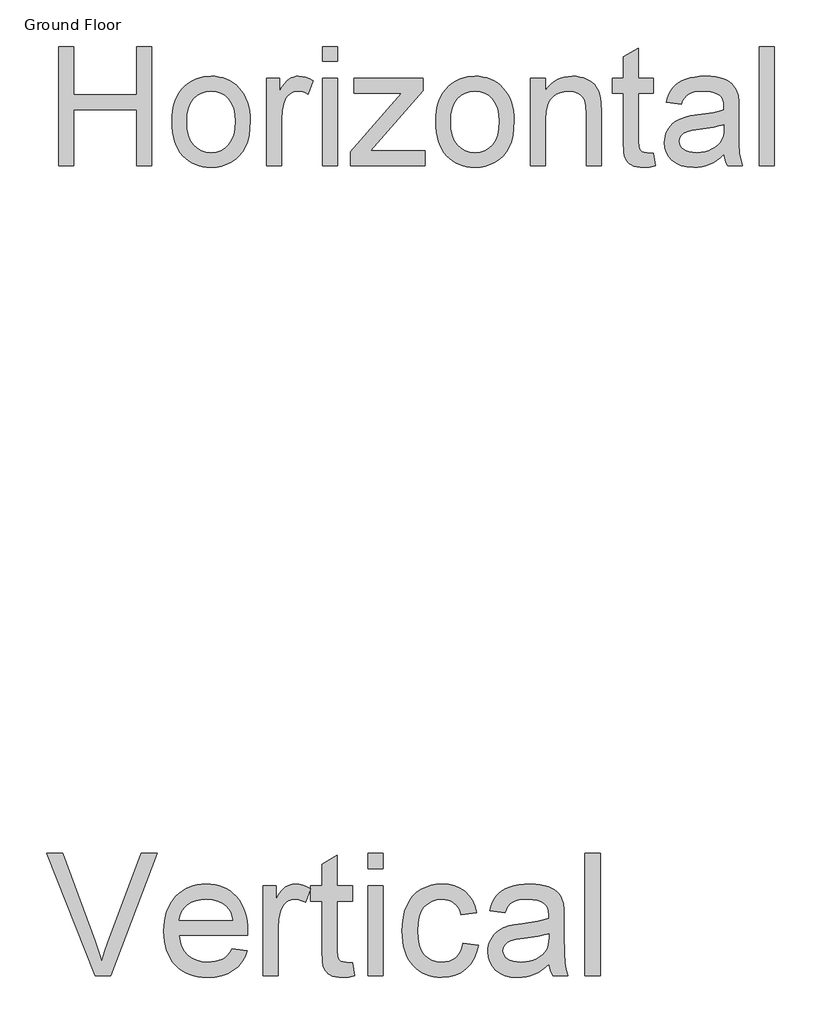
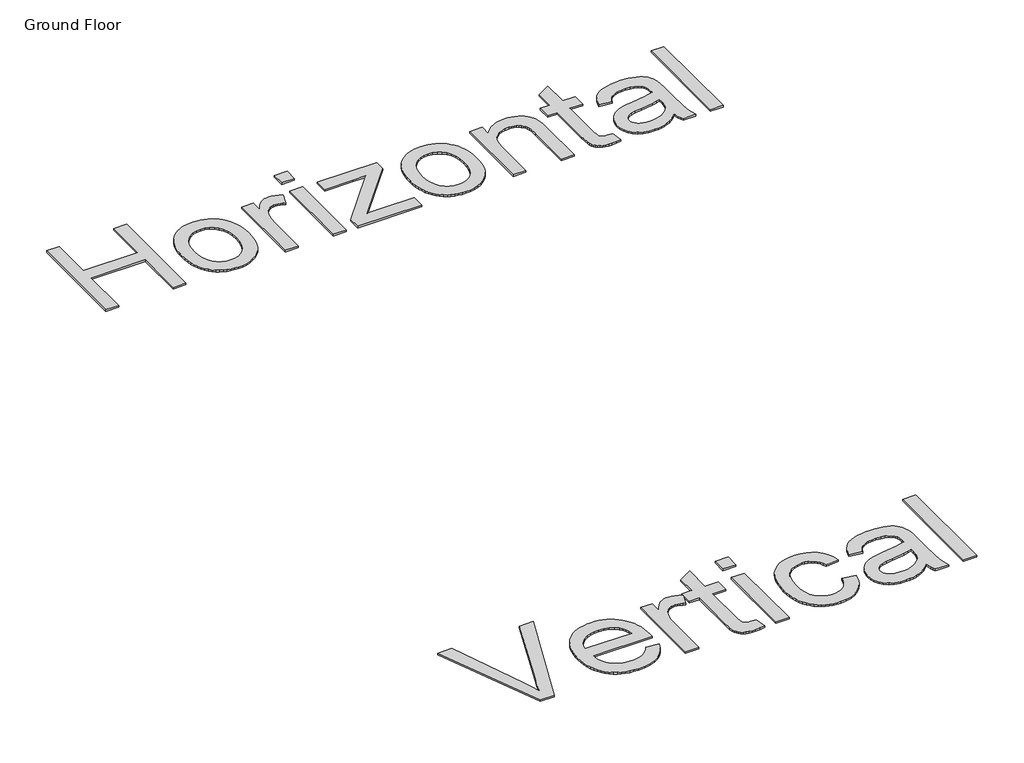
# One storey, part 5 of 11: 2 proxies.
"""IFC4 building model written with IfcOpenShell, lengths in millimetres."""

from ifc_helpers import new_model, si_unit, origin, origin_with_axes, place, context, project, spatial, polyline, outline, extrude, element, save

model = new_model("IFC4")

# Units and contexts
model_context = context("Model", 3, world=origin())
ifc_project = project(units=[si_unit("LENGTHUNIT", "METRE", prefix="MILLI")], contexts=[model_context])

# Site, building, storey
site = spatial("IfcSite", under=ifc_project)
building = spatial("IfcBuilding", under=site)
storey = spatial("IfcBuildingStorey", under=building, Name="Ground Floor", Elevation=0.0)

# Proxies
placement = place(None, origin())
element("IfcBuildingElementProxy", 1, Name="1200mm Arial", ObjectType="1200mm Arial", at=placement, inside=storey, context=model_context, shape_type="SweptSolid", body=[
    extrude(outline(polyline([(-31530.9350667, 5681.3532669), (-32010.6531884, 6886.8289887), (-31849.3737217, 6886.8289887), (-31528.2863163, 6018.3331745), (-31492.6017628, 5917.1656258), (-31463.2447796, 5822.6199531), (-31433.3727616, 5920.5501402), (-31399.0861596, 6018.3331745), (-31077.1158374, 6886.8289887), (-30915.8363708, 6886.8289887), (-31375.2474063, 5681.3532669), (-31530.9350667, 5681.3532669)])), origin_with_axes(), (0.0, 0.0, 1.0), 20.0),
    extrude(outline(polyline([(-30174.7748797, 5945.0510811), (-30027.0334704, 5926.2155229), (-30049.6858043, 5867.041704), (-30080.2659951, 5814.8944312), (-30118.774043, 5769.7737045), (-30165.2099478, 5731.6795239), (-30219.095463, 5701.4212298), (-30279.9523421, 5679.8081626), (-30347.780585, 5666.8403222), (-30422.5801916, 5662.5177088), (-30470.6025876, 5664.3824106), (-30516.0774007, 5669.9765162), (-30559.004631, 5679.3000255), (-30599.3842785, 5692.3529386), (-30637.2163432, 5709.1352554), (-30672.5008251, 5729.6469758), (-30705.2377241, 5753.8881001), (-30735.4270403, 5781.858628), (-30762.5353448, 5813.1952762), (-30786.0292088, 5847.5347612), (-30805.9086321, 5884.877083), (-30822.1736148, 5925.2222415), (-30834.8241569, 5968.5702369), (-30843.8602584, 6014.921069), (-30849.2819193, 6064.2747379), (-30851.0891396, 6116.6312436), (-30849.2635252, 6170.7696777), (-30843.786682, 6221.7903119), (-30834.65861, 6269.6931462), (-30821.8793092, 6314.4781806), (-30805.4487796, 6356.1454151), (-30785.3670212, 6394.6948497), (-30761.634034, 6430.1264843), (-30734.2498179, 6462.4403191), (-30703.9547356, 6491.2730705), (-30671.4891496, 6516.261455), (-30636.8530597, 6537.4054727), (-30600.0464661, 6554.7051235), (-30561.0693687, 6568.1604075), (-30519.9217676, 6577.7713246), (-30476.6036626, 6583.5378749), (-30431.1150539, 6585.4600583), (-30387.114068, 6583.5424734), (-30345.1686228, 6577.7897187), (-30305.2787182, 6568.2017942), (-30267.4443543, 6554.7786999), (-30231.665531, 6537.5204358), (-30197.9422483, 6516.4270019), (-30166.2745063, 6491.4983982), (-30136.662305, 6462.7346247), (-30109.8644009, 6430.4943663), (-30086.6395507, 6395.1363081), (-30066.9877544, 6356.6604499), (-30050.9090119, 6315.0667918), (-30038.4033233, 6270.3553338), (-30029.4706886, 6222.5260759), (-30024.1111078, 6171.5790181), (-30022.3245809, 6117.5141604), (-30023.2074977, 6076.8999881), (-30700.4046744, 6076.8999881), (-30691.676674, 6016.769676), (-30674.3218409, 5964.1073684), (-30648.340175, 5918.9130653), (-30613.7316763, 5881.1867667), (-30572.4093312, 5851.4435074), (-30526.2861261, 5830.1983222), (-30475.3620609, 5817.451211), (-30419.6371357, 5813.202174), (-30377.9561056, 5815.1703427), (-30339.4388607, 5821.0748487), (-30304.085401, 5830.9156921), (-30271.8957264, 5844.6928728), (-30242.869837, 5862.7742729), (-30217.0077327, 5885.5277743), (-30194.3094136, 5912.953377), (-30174.7748797, 5945.0510811)]), holes=[polyline([(-30700.4046744, 6227.5844534), (-30173.0090461, 6227.5844534), (-30180.7529621, 6270.2219766), (-30193.3897086, 6307.1941171), (-30210.9192857, 6338.5008749), (-30233.3416933, 6364.14225), (-30274.4341122, 6395.0443376), (-30321.1919138, 6417.1172573), (-30373.6150981, 6430.3610091), (-30431.7036651, 6434.7755931), (-30484.6878695, 6431.253123), (-30533.275884, 6420.6857126), (-30577.4677086, 6403.0733621), (-30617.2633435, 6378.4160714), (-30650.6578316, 6347.8542746), (-30675.6462161, 6312.5284061), (-30692.228497, 6272.4384656), (-30700.4046744, 6227.5844534)])]), origin_with_axes(), (0.0, 0.0, 1.0), 20.0),
    extrude(outline(polyline([(-29871.6401157, 5681.3532669), (-29871.6401157, 6566.6245001), (-29739.7912086, 6566.6245001), (-29739.7912086, 6435.6585098), (-29714.9591739, 6477.5234809), (-29691.0836324, 6511.5893536), (-29668.1645841, 6537.8561281), (-29646.202029, 6556.3238043), (-29624.2026857, 6569.0709154), (-29601.1732728, 6578.1759948), (-29577.1137903, 6583.6390424), (-29552.0242382, 6585.4600583), (-29514.6474275, 6582.5537905), (-29476.9763112, 6573.8349872), (-29439.0108893, 6559.3036484), (-29400.7511618, 6538.9597741), (-29451.0774188, 6403.8735055), (-29477.5649224, 6417.3931688), (-29504.0524261, 6427.0500712), (-29530.5399297, 6432.8442126), (-29557.0274334, 6434.7755931), (-29580.1212256, 6432.917789), (-29602.0194014, 6427.3443768), (-29622.7219607, 6418.0553564), (-29642.2289035, 6405.0507278), (-29659.8044658, 6388.7535555), (-29674.7128836, 6369.5869035), (-29686.954157, 6347.550772), (-29696.5282859, 6322.6451609), (-29707.2152579, 6281.5159539), (-29714.8488093, 6238.4737604), (-29720.9556504, 6146.6504144), (-29720.9556504, 5681.3532669), (-29871.6401157, 5681.3532669)])), origin_with_axes(), (0.0, 0.0, 1.0), 20.0),
    extrude(outline(polyline([(-28986.3688825, 5807.0217565), (-28967.5333243, 5676.938683), (-29027.2037839, 5666.1229523), (-29080.2523676, 5662.5177088), (-29118.7144302, 5664.0812073), (-29152.5779679, 5668.7717027), (-29181.8429806, 5676.5891951), (-29206.5094684, 5687.5336845), (-29227.2212247, 5701.0165596), (-29244.6220431, 5716.4492093), (-29258.7119235, 5733.8316335), (-29269.4908659, 5753.1638324), (-29277.4739052, 5779.081119), (-29283.1760762, 5816.2188064), (-29287.7378129, 5924.1553837), (-29287.7378129, 6415.9400349), (-29400.7511618, 6415.9400349), (-29400.7511618, 6566.6245001), (-29287.7378129, 6566.6245001), (-29287.7378129, 6781.7618909), (-29137.0533477, 6870.3478753), (-29137.0533477, 6566.6245001), (-28986.3688825, 6566.6245001), (-28986.3688825, 6415.9400349), (-29137.0533477, 6415.9400349), (-29137.0533477, 5928.5699677), (-29135.0667849, 5878.9794747), (-29129.1070966, 5850.8732903), (-29118.6960361, 5835.3118819), (-29103.3553569, 5823.3557171), (-29081.613531, 5815.7405598), (-29051.9990304, 5813.202174), (-28986.3688825, 5807.0217565)])), origin_with_axes(), (0.0, 0.0, 1.0), 20.0),
    extrude(outline(polyline([(-28835.6844172, 5681.3532669), (-28835.6844172, 6566.6245001), (-28684.999952, 6566.6245001), (-28684.999952, 5681.3532669), (-28835.6844172, 5681.3532669)])), origin_with_axes(), (0.0, 0.0, 1.0), 20.0),
    extrude(outline(polyline([(-28835.6844172, 6736.1445235), (-28835.6844172, 6886.8289887), (-28684.999952, 6886.8289887), (-28684.999952, 6736.1445235), (-28835.6844172, 6736.1445235)])), origin_with_axes(), (0.0, 0.0, 1.0), 20.0),
    extrude(outline(polyline([(-27893.9065096, 6001.5577555), (-27743.2220444, 5982.7221974), (-27759.6111872, 5911.6198048), (-27785.2341682, 5848.7027865), (-27820.0909872, 5793.9711427), (-27864.1816444, 5747.4248733), (-27915.6483355, 5710.2779888), (-27972.6332565, 5683.7444999), (-28035.1364075, 5667.8244066), (-28103.1577884, 5662.5177088), (-28146.5057838, 5664.3686151), (-28187.6694798, 5669.9213339), (-28226.6488764, 5679.1758654), (-28263.4439737, 5692.1322094), (-28298.0547717, 5708.790366), (-28330.4812703, 5729.1503352), (-28360.7234696, 5753.2121169), (-28388.7813695, 5780.9757112), (-28414.0617603, 5812.1973963), (-28435.9714324, 5846.6334503), (-28454.5103857, 5884.2838733), (-28469.6786202, 5925.1486651), (-28481.476136, 5969.2278259), (-28489.9029329, 6016.5213557), (-28494.9590111, 6067.0292544), (-28496.6443705, 6120.751522), (-28493.7656939, 6190.0328987), (-28485.129664, 6254.8445092), (-28470.736281, 6315.1863535), (-28450.5855447, 6371.0584315), (-28424.5394994, 6421.3387032), (-28392.4601894, 6464.9051285), (-28354.3476147, 6501.7577073), (-28310.2017753, 6531.8964398), (-28262.018431, 6555.3305229), (-28211.7933416, 6572.0691537), (-28159.5265071, 6582.1123321), (-28105.2179276, 6585.4600583), (-28038.364572, 6580.8615333), (-27977.8939691, 6567.0659585), (-27923.8061187, 6544.0733338), (-27876.101021, 6511.8836592), (-27835.5880163, 6471.2326988), (-27803.076445, 6422.8562164), (-27778.566307, 6366.7542121), (-27762.0576025, 6302.926686), (-27912.7420677, 6284.0911278), (-27924.5050945, 6319.2882377), (-27940.0757, 6349.8316404), (-27959.4538841, 6375.7213358), (-27982.6396468, 6396.957324), (-28009.044377, 6413.5028167), (-28038.0794635, 6425.3210258), (-28069.7449062, 6432.4119512), (-28104.0407052, 6434.7755931), (-28155.2406819, 6430.1218858), (-28201.4190693, 6416.1607641), (-28242.5758676, 6392.8922279), (-28278.7110765, 6360.3162772), (-28294.4725208, 6340.3494819), (-28308.1324391, 6317.678754), (-28329.1476981, 6264.2255001), (-28341.7568535, 6199.9565155), (-28345.9599053, 6124.8718003), (-28341.848824, 6048.655848), (-28329.5155801, 5983.6419024), (-28308.9601736, 5929.8299635), (-28295.5991594, 5907.1247466), (-28280.1826045, 5887.2200314), (-28244.7647654, 5854.8372188), (-28204.2885489, 5831.7066384), (-28158.753955, 5817.8282901), (-28108.1609836, 5813.202174), (-28067.3904615, 5816.0900477), (-28030.1332124, 5824.7536687), (-27996.3892364, 5839.193037), (-27966.1585334, 5859.4081526), (-27940.2872321, 5885.6197448), (-27919.621461, 5918.0485426), (-27904.1612202, 5956.6945462), (-27893.9065096, 6001.5577555)])), origin_with_axes(), (0.0, 0.0, 1.0), 20.0),
    extrude(outline(polyline([(-27046.3063927, 5794.3666159), (-27082.0369315, 5760.834172), (-27118.3008991, 5732.6360171), (-27155.0982957, 5709.7721511), (-27192.4291212, 5692.242574), (-27230.7164398, 5679.2379455), (-27270.383316, 5669.9489251), (-27311.4297496, 5664.3755129), (-27353.8557407, 5662.5177088), (-27420.9482195, 5666.987475), (-27479.7817476, 5680.3967737), (-27530.3563249, 5702.745605), (-27572.6719514, 5734.0339686), (-27606.0848336, 5772.275302), (-27629.951178, 5815.4830424), (-27644.2709847, 5863.6571896), (-27649.0442536, 5916.7977438), (-27647.2416318, 5948.7482951), (-27641.8337665, 5979.2641066), (-27632.8206576, 6008.3451783), (-27620.2023052, 6035.9915103), (-27604.6500938, 6061.5960971), (-27586.8354082, 6084.5519336), (-27566.7582483, 6104.8590198), (-27544.4186142, 6122.5173555), (-27494.5706038, 6151.2121512), (-27438.9100579, 6171.9606957), (-27384.6842519, 6183.5121903), (-27308.5326789, 6194.6222266), (-27154.4636993, 6218.4609799), (-27094.9771807, 6231.9254609), (-27047.1893095, 6246.4200115), (-27046.3063927, 6279.9708495), (-27048.8999608, 6316.5015316), (-27056.680665, 6347.2196782), (-27069.6485053, 6372.1252893), (-27087.8034817, 6391.2183648), (-27119.1838159, 6410.2746522), (-27157.4067552, 6423.886286), (-27202.4722996, 6432.0532663), (-27254.3804492, 6434.7755931), (-27302.6465669, 6432.9637742), (-27344.143656, 6427.5283177), (-27378.8717163, 6418.4692236), (-27406.830748, 6405.7864918), (-27429.8049786, 6388.486841), (-27449.5786358, 6365.5769898), (-27466.1517197, 6337.0569381), (-27479.5242302, 6302.926686), (-27630.2086954, 6321.7622441), (-27618.7399742, 6365.1723196), (-27604.0522856, 6404.1678111), (-27586.1456295, 6438.7487186), (-27565.0200059, 6468.9150422), (-27539.7649069, 6495.2737872), (-27509.4698246, 6518.4319588), (-27474.134759, 6538.389557), (-27433.75971, 6555.1465819), (-27389.1632151, 6568.4087278), (-27341.1638118, 6577.8816892), (-27289.7615001, 6583.565466), (-27234.9562798, 6585.4600583), (-27181.3834643, 6583.7861952), (-27133.0897554, 6578.764606), (-27090.0751531, 6570.3952906), (-27052.3396574, 6558.678249), (-27019.5705687, 6544.4320188), (-26991.4551872, 6528.4751372), (-26967.993513, 6510.8076044), (-26949.185546, 6491.4294203), (-26933.9368373, 6469.8623383), (-26921.1529379, 6445.6281119), (-26902.9795674, 6389.1582257), (-26897.4613374, 6337.0661351), (-26895.6219275, 6257.3093186), (-26895.6219275, 6069.8366538), (-26893.7089411, 5906.5338362), (-26887.969982, 5808.0518261), (-26876.6392165, 5743.3413831), (-26857.9508112, 5681.3532669), (-27008.6352764, 5681.3532669), (-27022.026181, 5706.5163954), (-27032.7683353, 5733.739663), (-27046.3063927, 5794.3666159)]), holes=[polyline([(-27046.3063927, 6095.7355463), (-27091.8501837, 6082.6941296), (-27147.5475178, 6070.6459942), (-27289.4028151, 6049.5295677), (-27367.5777391, 6037.9780731), (-27419.0444302, 6025.1022032), (-27452.7792092, 6008.4003606), (-27477.7583966, 5985.3709477), (-27493.2094404, 5957.7797981), (-27498.3597884, 5927.3927453), (-27495.5546882, 5903.9770563), (-27487.1393875, 5882.5847183), (-27473.1138864, 5863.2157312), (-27453.478185, 5845.8700952), (-27428.416224, 5831.5778797), (-27398.1119447, 5821.3691543), (-27362.5653469, 5815.2439191), (-27321.7764307, 5813.202174), (-27280.1321888, 5815.4554512), (-27240.8423917, 5822.2152829), (-27203.9070394, 5833.481669), (-27169.3261319, 5849.2546095), (-27138.1297387, 5868.2281234), (-27111.3479294, 5889.0962296), (-27088.9807041, 5911.8589281), (-27071.0280628, 5936.5162188), (-27060.5986082, 5958.5891385), (-27053.1489978, 5985.3709477), (-27048.6792316, 6016.8616465), (-27047.1893095, 6053.0612349), (-27046.3063927, 6095.7355463)])]), origin_with_axes(), (0.0, 0.0, 1.0), 20.0),
    extrude(outline(polyline([(-26688.4307878, 5681.3532669), (-26688.4307878, 6886.8289887), (-26537.7463226, 6886.8289887), (-26537.7463226, 5681.3532669), (-26688.4307878, 5681.3532669)])), origin_with_axes(), (0.0, 0.0, 1.0), 20.0),
])
element("IfcBuildingElementProxy", 2, Name="1200mm Arial", ObjectType="1200mm Arial", at=placement, inside=storey, context=model_context, shape_type="SweptSolid", body=[
    extrude(outline(polyline([(-31890.3482906, 13681.3532669), (-31890.3482906, 14856.6259942), (-31743.4391996, 14856.6259942), (-31743.4391996, 14379.1714488), (-31119.0755633, 14379.1714488), (-31119.0755633, 14856.6259942), (-30972.1664724, 14856.6259942), (-30972.1664724, 13681.3532669), (-31119.0755633, 13681.3532669), (-31119.0755633, 14232.2623578), (-31743.4391996, 14232.2623578), (-31743.4391996, 13681.3532669), (-31890.3482906, 13681.3532669)])), origin_with_axes(), (0.0, 0.0, 1.0), 20.0),
    extrude(outline(polyline([(-30770.1664724, 14112.8987215), (-30768.1803662, 14170.7199662), (-30762.2220477, 14224.6765979), (-30752.2915168, 14274.7686167), (-30738.3887735, 14320.9960226), (-30720.5138179, 14363.3588156), (-30698.6666499, 14401.8569956), (-30672.8472696, 14436.4905627), (-30643.0556769, 14467.2595169), (-30615.7881876, 14489.6536487), (-30587.0681059, 14509.0618962), (-30556.8954319, 14525.4842595), (-30525.2701656, 14538.9207385), (-30492.1923069, 14549.3713333), (-30457.6618559, 14556.8360439), (-30384.2431769, 14562.8078124), (-30342.7479044, 14560.9898303), (-30303.1939049, 14555.5358841), (-30265.5811785, 14546.4459738), (-30229.9097252, 14533.7200993), (-30196.179545, 14517.3582607), (-30164.3906379, 14497.360458), (-30134.5430038, 14473.7266911), (-30106.6366428, 14446.4569601), (-30081.3844012, 14415.9816627), (-30059.4991251, 14382.7311966), (-30040.9808145, 14346.7055619), (-30025.8294695, 14307.9047584), (-30014.0450901, 14266.3287863), (-30005.6276762, 14221.9776455), (-30000.5772279, 14174.851336), (-29998.8937451, 14124.9498578), (-30001.8706627, 14046.3126064), (-30010.8014156, 13976.5343749), (-30025.6860036, 13915.6151632), (-30046.5244269, 13863.5549715), (-30073.0566535, 13818.5873756), (-30105.0226513, 13778.9459516), (-30142.4224205, 13744.6306995), (-30185.255961, 13715.6416192), (-30231.8554816, 13692.6063742), (-30280.5531911, 13676.1526277), (-30331.3490896, 13666.2803799), (-30384.2431769, 13662.9896306), (-30426.3930127, 13664.8008877), (-30466.4760427, 13670.234659), (-30504.4922669, 13679.2909445), (-30540.4416854, 13691.9697442), (-30574.3242982, 13708.2710581), (-30606.1401052, 13728.1948863), (-30635.8891064, 13751.7412286), (-30663.5713019, 13778.9100851), (-30688.554545, 13809.486257), (-30710.206689, 13843.2545453), (-30728.5277339, 13880.2149502), (-30743.5176798, 13920.3674715), (-30755.1765265, 13963.7121093), (-30763.5042742, 14010.2488635), (-30768.5009228, 14059.9777343), (-30770.1664724, 14112.8987215)]), holes=[polyline([(-30623.2573815, 14113.1856533), (-30619.0072039, 14041.9279296), (-30606.2566712, 13980.228622), (-30585.0057835, 13928.0877307), (-30555.2545406, 13885.5052556), (-30519.065265, 13852.4273969), (-30478.5002792, 13828.800355), (-30433.5595832, 13814.6241299), (-30384.2431769, 13809.8987215), (-30335.177836, 13814.6510297), (-30290.4164724, 13828.9079544), (-30249.959086, 13852.6694956), (-30213.8056769, 13885.9356533), (-30184.054434, 13928.9395595), (-30162.8035462, 13981.9143465), (-30150.0530136, 14044.8600141), (-30145.802836, 14117.7765624), (-30150.0799134, 14186.774698), (-30162.9111457, 14246.8600141), (-30184.2965327, 14298.0325105), (-30214.2360746, 14340.2921874), (-30250.523983, 14373.3700461), (-30290.9544695, 14396.997088), (-30335.5275342, 14411.1733131), (-30384.2431769, 14415.8987215), (-30433.5595832, 14411.1912463), (-30478.5002792, 14397.0688209), (-30519.065265, 14373.5314452), (-30555.2545406, 14340.5791192), (-30585.0057835, 14298.1221767), (-30606.2566712, 14246.0709516), (-30619.0072039, 14184.4254438), (-30623.2573815, 14113.1856533)])]), origin_with_axes(), (0.0, 0.0, 1.0), 20.0),
    extrude(outline(polyline([(-29833.6210178, 13681.3532669), (-29833.6210178, 14544.444176), (-29705.0755633, 14544.444176), (-29705.0755633, 14416.7595169), (-29680.8656911, 14457.5755681), (-29657.5883474, 14490.787926), (-29635.243532, 14516.3965908), (-29613.8312451, 14534.4015624), (-29592.3830917, 14546.8292968), (-29569.9306769, 14555.7062499), (-29546.4740008, 14561.0324218), (-29522.0130633, 14562.8078124), (-29485.5727224, 14559.9743607), (-29448.8454496, 14551.4740056), (-29411.8312451, 14537.306747), (-29374.5301087, 14517.4725851), (-29423.5954496, 14385.7708806), (-29449.4193133, 14398.951811), (-29475.2431769, 14408.3667613), (-29501.0670406, 14414.0157314), (-29526.8909042, 14415.8987215), (-29549.4060853, 14414.0874644), (-29570.7556059, 14408.6536931), (-29590.939466, 14399.5974076), (-29609.9576656, 14386.9186078), (-29627.0928751, 14371.0297584), (-29641.627765, 14352.3433238), (-29653.5623353, 14330.8593039), (-29662.896586, 14306.5776988), (-29673.3157977, 14266.4789772), (-29680.7580917, 14224.5151988), (-29686.7119269, 14134.9924715), (-29686.7119269, 13681.3532669), (-29833.6210178, 13681.3532669)])), origin_with_axes(), (0.0, 0.0, 1.0), 20.0),
    extrude(outline(polyline([(-29282.7119269, 13681.3532669), (-29282.7119269, 14544.444176), (-29135.802836, 14544.444176), (-29135.802836, 13681.3532669), (-29282.7119269, 13681.3532669)])), origin_with_axes(), (0.0, 0.0, 1.0), 20.0),
    extrude(outline(polyline([(-29282.7119269, 14709.7169033), (-29282.7119269, 14856.6259942), (-29135.802836, 14856.6259942), (-29135.802836, 14709.7169033), (-29282.7119269, 14709.7169033)])), origin_with_axes(), (0.0, 0.0, 1.0), 20.0),
    extrude(outline(polyline([(-29007.2573815, 13681.3532669), (-29007.2573815, 13819.6544033), (-28500.2488587, 14397.5350851), (-28650.3141996, 14397.5350851), (-28970.5301087, 14397.5350851), (-28970.5301087, 14544.444176), (-28291.0755633, 14544.444176), (-28291.0755633, 14419.6288351), (-28740.6977224, 13906.881676), (-28809.5613587, 13828.2623578), (-28639.6977224, 13828.2623578), (-28272.7119269, 13828.2623578), (-28272.7119269, 13681.3532669), (-29007.2573815, 13681.3532669)])), origin_with_axes(), (0.0, 0.0, 1.0), 20.0),
    extrude(outline(polyline([(-28162.5301087, 14112.8987215), (-28160.5440026, 14170.7199662), (-28154.585684, 14224.6765979), (-28144.6551531, 14274.7686167), (-28130.7524099, 14320.9960226), (-28112.8774543, 14363.3588156), (-28091.0302863, 14401.8569956), (-28065.210906, 14436.4905627), (-28035.4193133, 14467.2595169), (-28008.1518239, 14489.6536487), (-27979.4317423, 14509.0618962), (-27949.2590683, 14525.4842595), (-27917.6338019, 14538.9207385), (-27884.5559433, 14549.3713333), (-27850.0254923, 14556.8360439), (-27776.6068133, 14562.8078124), (-27735.1115407, 14560.9898303), (-27695.5575413, 14555.5358841), (-27657.9448149, 14546.4459738), (-27622.2733616, 14533.7200993), (-27588.5431814, 14517.3582607), (-27556.7542742, 14497.360458), (-27526.9066402, 14473.7266911), (-27499.0002792, 14446.4569601), (-27473.7480375, 14415.9816627), (-27451.8627614, 14382.7311966), (-27433.3444509, 14346.7055619), (-27418.1931059, 14307.9047584), (-27406.4087265, 14266.3287863), (-27397.9913126, 14221.9776455), (-27392.9408642, 14174.851336), (-27391.2573815, 14124.9498578), (-27394.2342991, 14046.3126064), (-27403.1650519, 13976.5343749), (-27418.04964, 13915.6151632), (-27438.8880633, 13863.5549715), (-27465.4202898, 13818.5873756), (-27497.3862877, 13778.9459516), (-27534.7860569, 13744.6306995), (-27577.6195974, 13715.6416192), (-27624.219118, 13692.6063742), (-27672.9168275, 13676.1526277), (-27723.7127259, 13666.2803799), (-27776.6068133, 13662.9896306), (-27818.756649, 13664.8008877), (-27858.839679, 13670.234659), (-27896.8559033, 13679.2909445), (-27932.8053218, 13691.9697442), (-27966.6879346, 13708.2710581), (-27998.5037415, 13728.1948863), (-28028.2527428, 13751.7412286), (-28055.9349383, 13778.9100851), (-28080.9181814, 13809.486257), (-28102.5703254, 13843.2545453), (-28120.8913703, 13880.2149502), (-28135.8813161, 13920.3674715), (-28147.5401629, 13963.7121093), (-28155.8679106, 14010.2488635), (-28160.8645592, 14059.9777343), (-28162.5301087, 14112.8987215)]), holes=[polyline([(-28015.6210178, 14113.1856533), (-28011.3708403, 14041.9279296), (-27998.6203076, 13980.228622), (-27977.3694198, 13928.0877307), (-27947.6181769, 13885.5052556), (-27911.4289013, 13852.4273969), (-27870.8639156, 13828.800355), (-27825.9232195, 13814.6241299), (-27776.6068133, 13809.8987215), (-27727.5414724, 13814.6510297), (-27682.7801087, 13828.9079544), (-27642.3227224, 13852.6694956), (-27606.1693133, 13885.9356533), (-27576.4180704, 13928.9395595), (-27555.1671826, 13981.9143465), (-27542.4166499, 14044.8600141), (-27538.1664724, 14117.7765624), (-27542.4435498, 14186.774698), (-27555.274782, 14246.8600141), (-27576.6601691, 14298.0325105), (-27606.599711, 14340.2921874), (-27642.8876194, 14373.3700461), (-27683.3181059, 14396.997088), (-27727.8911705, 14411.1733131), (-27776.6068133, 14415.8987215), (-27825.9232195, 14411.1912463), (-27870.8639156, 14397.0688209), (-27911.4289013, 14373.5314452), (-27947.6181769, 14340.5791192), (-27977.3694198, 14298.1221767), (-27998.6203076, 14246.0709516), (-28011.3708403, 14184.4254438), (-28015.6210178, 14113.1856533)])]), origin_with_axes(), (0.0, 0.0, 1.0), 20.0),
    extrude(outline(polyline([(-27225.9846542, 13681.3532669), (-27225.9846542, 14544.444176), (-27079.0755633, 14544.444176), (-27079.0755633, 14423.9328124), (-27054.8387913, 14456.4816405), (-27028.0375661, 14484.6906249), (-26998.6718879, 14508.5597655), (-26966.7417565, 14528.0890624), (-26932.2471719, 14543.2785155), (-26895.1881343, 14554.1281249), (-26855.5646435, 14560.6378905), (-26813.3766996, 14562.8078124), (-26776.4073282, 14561.0593216), (-26740.962282, 14555.8138493), (-26707.0415611, 14547.0713955), (-26674.6451656, 14534.8319601), (-26645.0015221, 14519.7501064), (-26619.3390576, 14502.4803976), (-26597.6577721, 14483.0228337), (-26579.9576656, 14461.3774147), (-26553.23714, 14411.6306107), (-26535.9136315, 14353.3475851), (-26530.1032621, 14297.6110794), (-26528.1664724, 14211.3163351), (-26528.1664724, 13681.3532669), (-26675.0755633, 13681.3532669), (-26675.0755633, 14191.5180397), (-26679.3078076, 14267.4832385), (-26684.598113, 14297.2344814), (-26692.0045406, 14321.4981533), (-26702.0919873, 14341.9330787), (-26715.4253502, 14360.1980823), (-26732.0046293, 14376.2931639), (-26751.8298246, 14390.2183238), (-26774.2194731, 14401.4534978), (-26798.4921116, 14409.478622), (-26824.6477401, 14414.2936966), (-26852.6863587, 14415.8987215), (-26897.2952898, 14412.2941405), (-26938.7300377, 14401.4803976), (-26976.9906023, 14383.4574928), (-27012.0769837, 14358.225426), (-27027.7797758, 14342.1886274), (-27041.3888623, 14322.9148791), (-27052.9042431, 14300.4041814), (-27062.3259184, 14274.656534), (-27074.8881521, 14213.4503905), (-27079.0755633, 14139.2964488), (-27079.0755633, 13681.3532669), (-27225.9846542, 13681.3532669)])), origin_with_axes(), (0.0, 0.0, 1.0), 20.0),
    extrude(outline(polyline([(-26013.9846542, 13803.8731533), (-25995.6210178, 13677.0492897), (-26053.796444, 13666.5045453), (-26105.5159042, 13662.9896306), (-26143.0143062, 13664.5139559), (-26176.0293985, 13669.0869317), (-26204.5611812, 13676.7085581), (-26228.6096542, 13687.3788351), (-26248.8024809, 13700.523899), (-26265.7673246, 13715.5698863), (-26279.5041854, 13732.5167968), (-26290.0130633, 13751.3646306), (-26297.7960888, 13776.6325638), (-26303.3553928, 13812.8397726), (-26307.802836, 13918.0720169), (-26307.802836, 14397.5350851), (-26417.9846542, 14397.5350851), (-26417.9846542, 14544.444176), (-26307.802836, 14544.444176), (-26307.802836, 14754.1913351), (-26160.8937451, 14840.5578124), (-26160.8937451, 14544.444176), (-26013.9846542, 14544.444176), (-26013.9846542, 14397.5350851), (-26160.8937451, 14397.5350851), (-26160.8937451, 13922.3759942), (-26158.9569553, 13874.0279828), (-26153.146586, 13846.6259942), (-26142.9963729, 13831.4544743), (-26128.0400519, 13819.7978692), (-26106.8429638, 13812.3735084), (-26077.9704496, 13809.8987215), (-26013.9846542, 13803.8731533)])), origin_with_axes(), (0.0, 0.0, 1.0), 20.0),
    extrude(outline(polyline([(-25316.1664724, 13791.5350851), (-25351.0017884, 13758.8427911), (-25386.3571684, 13731.3511363), (-25422.2326123, 13709.0601206), (-25458.6281201, 13691.9697442), (-25495.9561563, 13679.2909445), (-25534.6291854, 13670.234659), (-25574.6472075, 13664.8008877), (-25616.0102224, 13662.9896306), (-25681.4217103, 13667.3474076), (-25738.7811741, 13680.4207385), (-25788.0886137, 13702.2096235), (-25829.3440292, 13732.7140624), (-25861.9197572, 13769.9972655), (-25885.1881343, 13812.1224431), (-25899.1491606, 13859.0895951), (-25903.802836, 13910.8987215), (-25902.0453786, 13942.048757), (-25896.7730065, 13971.7999999), (-25887.9857195, 14000.1524502), (-25875.6835178, 14027.1061078), (-25860.5209646, 14052.069176), (-25843.1526229, 14074.4498578), (-25823.578493, 14094.2481533), (-25801.7985746, 14111.4640624), (-25753.1994979, 14139.4399147), (-25698.9335178, 14159.6686078), (-25646.0663303, 14170.9306817), (-25571.8227224, 14181.7623578), (-25421.6139156, 14205.0038351), (-25363.6178218, 14218.1309658), (-25317.0272678, 14232.2623578), (-25316.1664724, 14264.9725851), (-25318.695059, 14300.587997), (-25326.280819, 14330.5365056), (-25338.9237522, 14354.8181107), (-25356.6238587, 14373.4328124), (-25387.2179638, 14392.0116476), (-25424.4832337, 14405.2822442), (-25468.4196684, 14413.2446022), (-25519.0272678, 14415.8987215), (-25566.084086, 14414.1322975), (-25606.5414724, 14408.8330255), (-25640.3994269, 14400.0009054), (-25667.6579496, 14387.6359374), (-25690.0565647, 14370.7697264), (-25709.3347962, 14348.4338777), (-25725.4926442, 14320.6283912), (-25738.5301087, 14287.3532669), (-25885.4391996, 14305.7169033), (-25874.2578254, 14348.0393465), (-25859.9381343, 14386.0578124), (-25842.4801265, 14419.772301), (-25821.8838019, 14449.1828124), (-25797.2614653, 14474.8811434), (-25767.7254212, 14497.4590908), (-25733.2756698, 14516.9166547), (-25693.912211, 14533.2538351), (-25650.4330739, 14546.1837002), (-25603.6362877, 14555.4193181), (-25553.5218523, 14560.9606888), (-25500.0897678, 14562.8078124), (-25447.8592103, 14561.1758877), (-25400.7754923, 14556.2801135), (-25358.8386137, 14548.1204899), (-25322.0485746, 14536.6970169), (-25290.10051, 14522.8077236), (-25262.6895548, 14507.2506391), (-25239.8157089, 14490.0257634), (-25221.4789724, 14471.1330965), (-25206.6123175, 14450.1063742), (-25194.1487167, 14426.4793323), (-25176.4306769, 14371.4242897), (-25171.0507053, 14320.6373578), (-25169.2573815, 14242.8788351), (-25169.2573815, 14060.1032669), (-25167.3923246, 13900.8919743), (-25161.7971542, 13804.8774147), (-25150.7502792, 13741.7882811), (-25132.5301087, 13681.3532669), (-25279.4391996, 13681.3532669), (-25292.4945974, 13705.8859374), (-25302.9676087, 13732.4271306), (-25316.1664724, 13791.5350851)]), holes=[polyline([(-25316.1664724, 14085.3532669), (-25360.5691712, 14072.6386007), (-25414.8710178, 14060.8923294), (-25553.1721542, 14040.3049715), (-25629.3884184, 14029.0428976), (-25679.5656201, 14016.4896306), (-25712.4551798, 14000.2062499), (-25736.8085178, 13977.7538351), (-25751.8724383, 13950.8539772), (-25756.8937451, 13921.2282669), (-25754.1589262, 13898.3992541), (-25745.9544695, 13877.5428976), (-25732.2803751, 13858.6591973), (-25713.1366428, 13841.7481533), (-25688.7026052, 13827.8140269), (-25659.1575945, 13817.8610794), (-25624.5016109, 13811.889311), (-25584.7346542, 13809.8987215), (-25544.1338019, 13812.0955432), (-25505.8284042, 13818.6860084), (-25469.818461, 13829.6701171), (-25436.1039724, 13845.0478692), (-25405.6891996, 13863.5460049), (-25379.5784042, 13883.8912641), (-25357.771586, 13906.0836469), (-25340.2687451, 13930.1231533), (-25330.1005988, 13951.6430397), (-25322.8376371, 13977.7538351), (-25318.4798602, 14008.4555397), (-25317.0272678, 14043.7481533), (-25316.1664724, 14085.3532669)])]), origin_with_axes(), (0.0, 0.0, 1.0), 20.0),
    extrude(outline(polyline([(-24967.2573815, 13681.3532669), (-24967.2573815, 14856.6259942), (-24820.3482906, 14856.6259942), (-24820.3482906, 13681.3532669), (-24967.2573815, 13681.3532669)])), origin_with_axes(), (0.0, 0.0, 1.0), 20.0),
])

save(model, "model.ifc")
